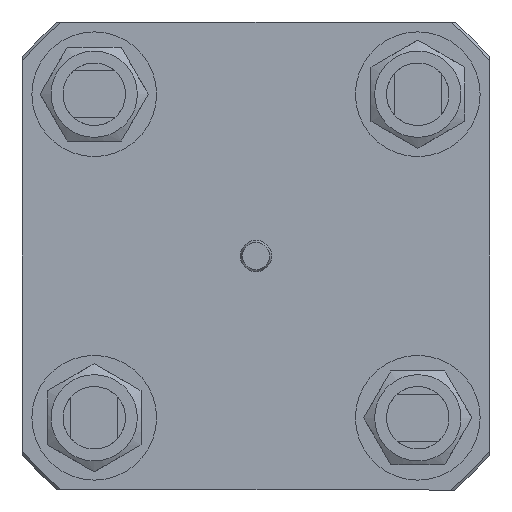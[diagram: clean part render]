
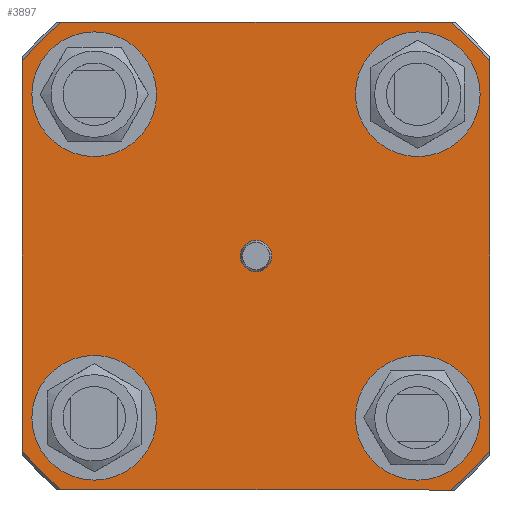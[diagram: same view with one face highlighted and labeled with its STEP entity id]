
A CAD part, left-side view. The second image highlights one B-rep face of the part: STEP entity #3897.
In plain terms, the highlighted planar face has unit normal (-1, 0, 0).
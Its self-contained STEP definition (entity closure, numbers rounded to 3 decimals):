
#245=FACE_BOUND('',#754,.T.);
#246=FACE_BOUND('',#755,.T.);
#247=FACE_BOUND('',#756,.T.);
#248=FACE_BOUND('',#757,.T.);
#249=FACE_BOUND('',#758,.T.);
#331=PLANE('',#4285);
#487=FACE_OUTER_BOUND('',#753,.T.);
#753=EDGE_LOOP('',(#3164,#3165,#3166,#3167,#3168,#3169,#3170,#3171));
#754=EDGE_LOOP('',(#3172));
#755=EDGE_LOOP('',(#3173));
#756=EDGE_LOOP('',(#3174));
#757=EDGE_LOOP('',(#3175));
#758=EDGE_LOOP('',(#3176));
#1022=LINE('',#6518,#1256);
#1023=LINE('',#6522,#1257);
#1024=LINE('',#6526,#1258);
#1025=LINE('',#6530,#1259);
#1256=VECTOR('',#5147,10.);
#1257=VECTOR('',#5150,10.);
#1258=VECTOR('',#5153,10.);
#1259=VECTOR('',#5156,10.);
#1457=CIRCLE('',#4209,3.);
#1468=CIRCLE('',#4251,12.);
#1470=CIRCLE('',#4255,12.);
#1472=CIRCLE('',#4259,12.);
#1476=CIRCLE('',#4274,12.);
#1485=CIRCLE('',#4286,58.5);
#1486=CIRCLE('',#4287,58.5);
#1487=CIRCLE('',#4288,58.5);
#1488=CIRCLE('',#4289,58.5);
#1733=VERTEX_POINT('',#6142);
#1780=VERTEX_POINT('',#6365);
#1782=VERTEX_POINT('',#6372);
#1784=VERTEX_POINT('',#6379);
#1800=VERTEX_POINT('',#6455);
#1815=VERTEX_POINT('',#6516);
#1816=VERTEX_POINT('',#6517);
#1817=VERTEX_POINT('',#6519);
#1818=VERTEX_POINT('',#6521);
#1819=VERTEX_POINT('',#6523);
#1820=VERTEX_POINT('',#6525);
#1821=VERTEX_POINT('',#6527);
#1822=VERTEX_POINT('',#6529);
#2175=EDGE_CURVE('',#1733,#1733,#1457,.T.);
#2248=EDGE_CURVE('',#1780,#1780,#1468,.T.);
#2251=EDGE_CURVE('',#1782,#1782,#1470,.T.);
#2254=EDGE_CURVE('',#1784,#1784,#1472,.T.);
#2279=EDGE_CURVE('',#1800,#1800,#1476,.T.);
#2296=EDGE_CURVE('',#1815,#1816,#1022,.T.);
#2297=EDGE_CURVE('',#1816,#1817,#1485,.T.);
#2298=EDGE_CURVE('',#1817,#1818,#1023,.T.);
#2299=EDGE_CURVE('',#1818,#1819,#1486,.T.);
#2300=EDGE_CURVE('',#1819,#1820,#1024,.T.);
#2301=EDGE_CURVE('',#1820,#1821,#1487,.T.);
#2302=EDGE_CURVE('',#1821,#1822,#1025,.T.);
#2303=EDGE_CURVE('',#1822,#1815,#1488,.T.);
#3164=ORIENTED_EDGE('',*,*,#2296,.T.);
#3165=ORIENTED_EDGE('',*,*,#2297,.T.);
#3166=ORIENTED_EDGE('',*,*,#2298,.T.);
#3167=ORIENTED_EDGE('',*,*,#2299,.T.);
#3168=ORIENTED_EDGE('',*,*,#2300,.T.);
#3169=ORIENTED_EDGE('',*,*,#2301,.T.);
#3170=ORIENTED_EDGE('',*,*,#2302,.T.);
#3171=ORIENTED_EDGE('',*,*,#2303,.T.);
#3172=ORIENTED_EDGE('',*,*,#2175,.T.);
#3173=ORIENTED_EDGE('',*,*,#2248,.T.);
#3174=ORIENTED_EDGE('',*,*,#2251,.T.);
#3175=ORIENTED_EDGE('',*,*,#2254,.T.);
#3176=ORIENTED_EDGE('',*,*,#2279,.T.);
#3897=ADVANCED_FACE('',(#487,#245,#246,#247,#248,#249),#331,.T.);
#4209=AXIS2_PLACEMENT_3D('',#6143,#4950,#4951);
#4251=AXIS2_PLACEMENT_3D('',#6366,#5060,#5061);
#4255=AXIS2_PLACEMENT_3D('',#6373,#5069,#5070);
#4259=AXIS2_PLACEMENT_3D('',#6380,#5078,#5079);
#4274=AXIS2_PLACEMENT_3D('',#6456,#5117,#5118);
#4285=AXIS2_PLACEMENT_3D('',#6515,#5145,#5146);
#4286=AXIS2_PLACEMENT_3D('',#6520,#5148,#5149);
#4287=AXIS2_PLACEMENT_3D('',#6524,#5151,#5152);
#4288=AXIS2_PLACEMENT_3D('',#6528,#5154,#5155);
#4289=AXIS2_PLACEMENT_3D('',#6531,#5157,#5158);
#4950=DIRECTION('center_axis',(1.,0.,0.));
#4951=DIRECTION('ref_axis',(0.,0.,
1.));
#5060=DIRECTION('center_axis',(1.,0.,0.));
#5061=DIRECTION('ref_axis',(0.,0.,-1.));
#5069=DIRECTION('center_axis',(1.,0.,0.));
#5070=DIRECTION('ref_axis',(0.,1.,0.));
#5078=DIRECTION('center_axis',(1.,0.,0.));
#5079=DIRECTION('ref_axis',(0.,0.,
1.));
#5117=DIRECTION('center_axis',(1.,0.,0.));
#5118=DIRECTION('ref_axis',(0.,-1.,0.));
#5145=DIRECTION('center_axis',(-1.,0.,0.));
#5146=DIRECTION('ref_axis',(0.,1.,0.));
#5147=DIRECTION('',(0.,0.,-1.));
#5148=DIRECTION('center_axis',(-1.,0.,0.));
#5149=DIRECTION('ref_axis',(0.,1.,0.));
#5150=DIRECTION('',(0.,-1.,0.));
#5151=DIRECTION('center_axis',(-1.,0.,0.));
#5152=DIRECTION('ref_axis',(0.,1.,0.));
#5153=DIRECTION('',(0.,0.,1.));
#5154=DIRECTION('center_axis',(-1.,0.,0.));
#5155=DIRECTION('ref_axis',(0.,1.,0.));
#5156=DIRECTION('',(0.,1.,0.));
#5157=DIRECTION('center_axis',(-1.,0.,0.));
#5158=DIRECTION('ref_axis',(0.,1.,0.));
#6142=CARTESIAN_POINT('',(-271.442,0.,-3.));
#6143=CARTESIAN_POINT('Origin',(-271.442,0.,
0.));
#6365=CARTESIAN_POINT('',(-271.442,-31.113,-19.113));
#6366=CARTESIAN_POINT('Origin',(-271.442,-31.113,-31.113));
#6372=CARTESIAN_POINT('',(-271.442,19.113,-31.113));
#6373=CARTESIAN_POINT('Origin',(-271.442,31.113,-31.113));
#6379=CARTESIAN_POINT('',(-271.442,31.113,19.113));
#6380=CARTESIAN_POINT('Origin',(-271.442,31.113,31.113));
#6455=CARTESIAN_POINT('',(-271.442,-19.113,31.113));
#6456=CARTESIAN_POINT('Origin',(-271.442,-31.113,31.113));
#6515=CARTESIAN_POINT('Origin',(-271.442,0.,
-3.1));
#6516=CARTESIAN_POINT('',(-271.442,45.,37.38));
#6517=CARTESIAN_POINT('',(-271.442,45.,-37.38));
#6518=CARTESIAN_POINT('',(-271.442,45.,20.95));
#6519=CARTESIAN_POINT('',(-271.442,37.38,-45.));
#6520=CARTESIAN_POINT('Origin',(-271.442,0.,
0.));
#6521=CARTESIAN_POINT('',(-271.442,-37.38,-45.));
#6522=CARTESIAN_POINT('',(-271.442,22.5,-45.));
#6523=CARTESIAN_POINT('',(-271.442,-45.,-37.38));
#6524=CARTESIAN_POINT('Origin',(-271.442,0.,
0.));
#6525=CARTESIAN_POINT('',(-271.442,-45.,37.38));
#6526=CARTESIAN_POINT('',(-271.442,-45.,-24.05));
#6527=CARTESIAN_POINT('',(-271.442,-37.38,45.));
#6528=CARTESIAN_POINT('Origin',(-271.442,0.,
0.));
#6529=CARTESIAN_POINT('',(-271.442,37.38,45.));
#6530=CARTESIAN_POINT('',(-271.442,-22.5,45.));
#6531=CARTESIAN_POINT('Origin',(-271.442,0.,
0.));
